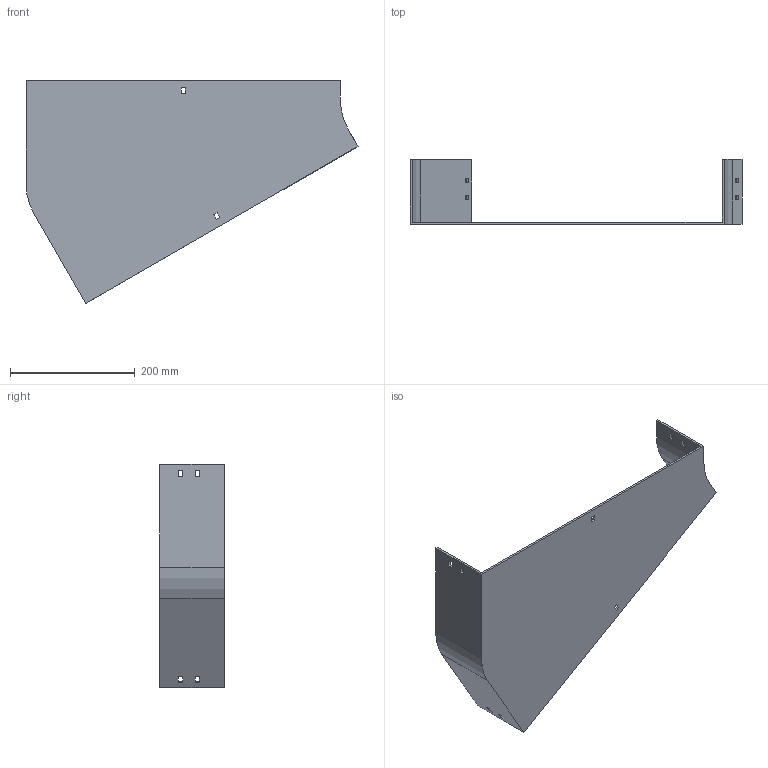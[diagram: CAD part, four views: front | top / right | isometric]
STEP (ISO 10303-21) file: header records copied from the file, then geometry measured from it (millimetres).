
FILE_DESCRIPTION (( 'STEP AP214' ), '1' );
FILE_NAME ('12F1D500.step', '2025-02-21T12:53:44', ( '' ), ( '' ), 'SwSTEP 2.0', 'SolidWorks 2023', '' );
FILE_SCHEMA (( 'AUTOMOTIVE_DESIGN' ));
Length unit declared in the file: millimetre
Products named in the file (1): 12F1D500
Bounding box: 532.4 x 104 x 357.98 mm (x, y, z)
Volume: 610275.1 mm3; surface area: 356564.5 mm2
Topology: 1 solids, 1 shells, 58 faces, 168 edges, 112 vertices
Faces by surface type: plane 54, cylinder 4
Entity records: 1943 total; most frequent: CARTESIAN_POINT 339, ORIENTED_EDGE 336, DIRECTION 294, EDGE_CURVE 168, LINE 160, VECTOR 160, VERTEX_POINT 112, EDGE_LOOP 78
